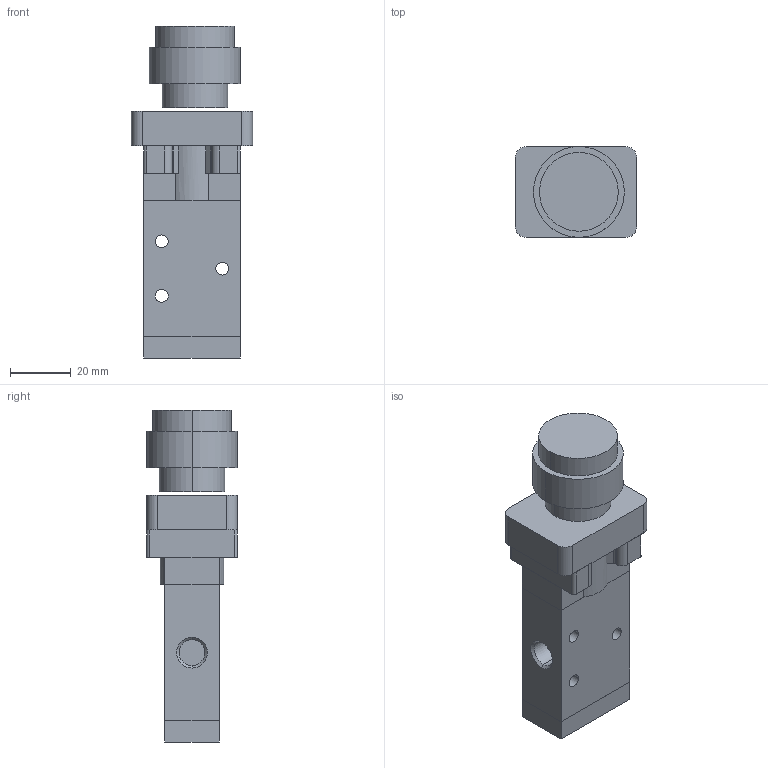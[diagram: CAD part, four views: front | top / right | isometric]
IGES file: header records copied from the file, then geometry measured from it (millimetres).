
Global section: file name: No Iges File Name specified; native system: AutoDesk Inventor R11.0; preprocessor: AutoDesk Inventor Iges Exporter R11.0; author: No Author specified; organization: No Organization specified; date: 20061219.113851; units: millimetre
Bounding box: 40 x 30.02 x 109.6 mm (x, y, z)
Volume: 69413 mm3; surface area: 16185.9 mm2
Topology: 2 solids, 2 shells, 91 faces, 230 edges, 150 vertices
Faces by surface type: plane 46, cylinder 20, bspline 15, revolution 10
